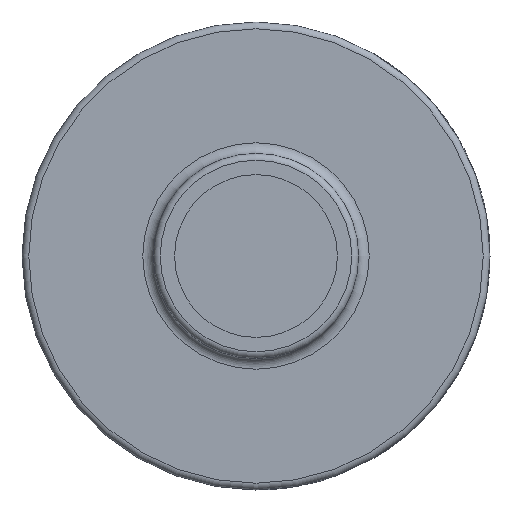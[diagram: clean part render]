
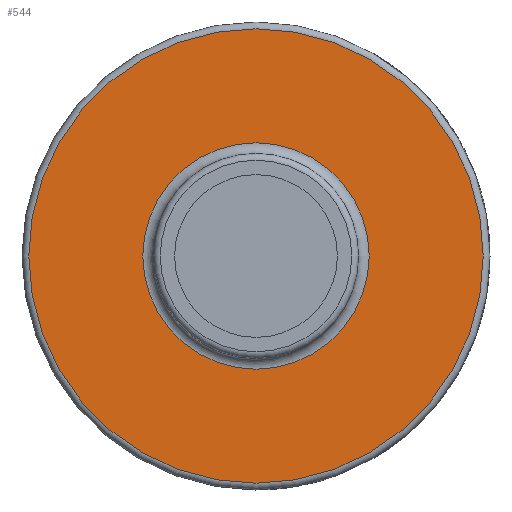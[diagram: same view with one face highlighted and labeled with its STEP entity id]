
A CAD part, left-side view. The second image highlights one B-rep face of the part: STEP entity #544.
In plain terms, the highlighted planar face has unit normal (-1, 0, 0).
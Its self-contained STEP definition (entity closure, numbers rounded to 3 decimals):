
#544 = ADVANCED_FACE( '', ( #1170, #1171 ), #1172, .T. );
#1170 = FACE_OUTER_BOUND( '', #2620, .T. );
#1171 = FACE_BOUND( '', #2621, .T. );
#1172 = PLANE( '', #2622 );
#2620 = EDGE_LOOP( '', ( #4555 ) );
#2621 = EDGE_LOOP( '', ( #4556 ) );
#2622 = AXIS2_PLACEMENT_3D( '', #4557, #4558, #4559 );
#4555 = ORIENTED_EDGE( '', *, *, #5392, .T. );
#4556 = ORIENTED_EDGE( '', *, *, #5173, .F. );
#4557 = CARTESIAN_POINT( '', ( 8.204, 0., 8.477 ) );
#4558 = DIRECTION( '', ( -1., 0., 0. ) );
#4559 = DIRECTION( '', ( 0., 0., 1. ) );
#5173 = EDGE_CURVE( '', #6055, #6055, #6056, .T. );
#5392 = EDGE_CURVE( '', #6400, #6400, #6401, .T. );
#6055 = VERTEX_POINT( '', #7620 );
#6056 = CIRCLE( '', #7621, 8.477 );
#6400 = VERTEX_POINT( '', #8595 );
#6401 = CIRCLE( '', #8596, 17.018 );
#7620 = CARTESIAN_POINT( '', ( 8.204, 0., 8.477 ) );
#7621 = AXIS2_PLACEMENT_3D( '', #9335, #9336, #9337 );
#8595 = CARTESIAN_POINT( '', ( 8.204, 0., 17.018 ) );
#8596 = AXIS2_PLACEMENT_3D( '', #9368, #9369, #9370 );
#9335 = CARTESIAN_POINT( '', ( 8.204, 0., 0. ) );
#9336 = DIRECTION( '', ( -1., 0., 0. ) );
#9337 = DIRECTION( '', ( 0., 0., 1. ) );
#9368 = CARTESIAN_POINT( '', ( 8.204, 0., 0. ) );
#9369 = DIRECTION( '', ( -1., 0., 0. ) );
#9370 = DIRECTION( '', ( 0., 0., 1. ) );
